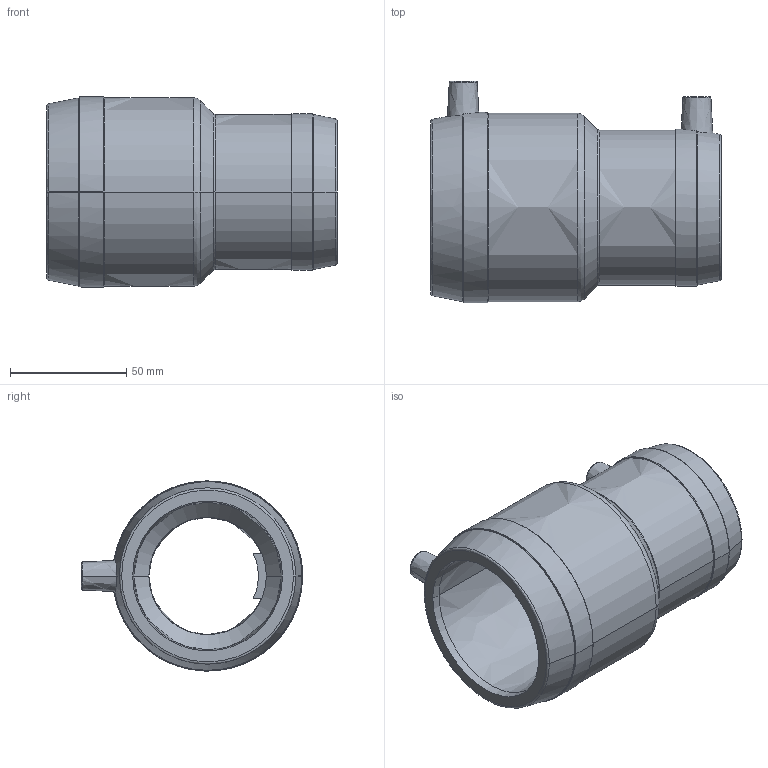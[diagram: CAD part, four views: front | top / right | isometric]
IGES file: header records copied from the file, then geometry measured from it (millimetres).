
Start section:  PTC IGES file: mr_d063-050_01.igs
Global section: file name: mr_d063-050_01.igs; native system: Pro/ENGINEER by Parametric Technology Corporation; preprocessor: 2011490; author: mtunjic; organization: Unknown; date: 20130816.150306; units: millimetre
Bounding box: 125 x 95.2 x 81.8 mm (x, y, z)
Surface area: 56611 mm2 (no closed solid volume)
Topology: 0 solids, 0 shells, 184 faces, 926 edges, 926 vertices
Faces by surface type: bspline 184
